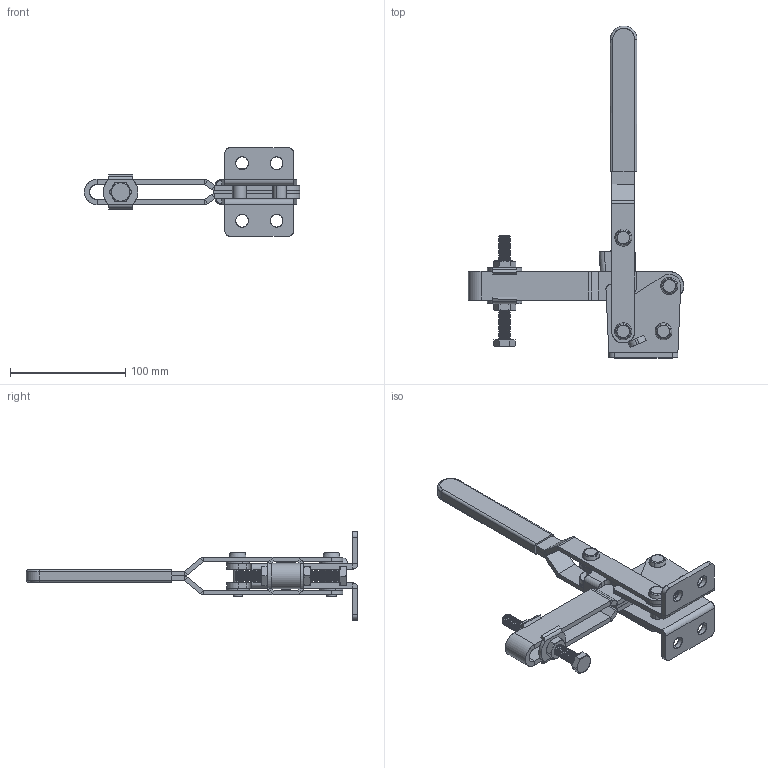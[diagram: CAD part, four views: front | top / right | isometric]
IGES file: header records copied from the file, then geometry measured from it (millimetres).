
Start section: SolidWorks IGES file using analytic representation for surfaces
Global section: file name: \\BARTOP_SV6\share\SOLIDWORKS\工具事業部\坂入用\受け渡し\作業中\2015.06.30\ISK-41B中0\ISK-41B中0.IGS; native system: SolidWorks 2015; preprocessor: SolidWorks 2015; author: SOLID02; date: 150630.154418; units: millimetre
Bounding box: 187.02 x 288.31 x 77 mm (x, y, z)
Surface area: 121104 mm2 (no closed solid volume)
Topology: 0 solids, 0 shells, 853 faces, 8904 edges, 8896 vertices
Faces by surface type: revolution 602, bspline 251
